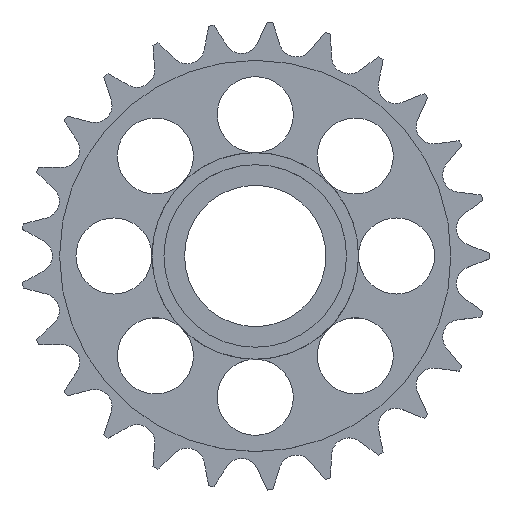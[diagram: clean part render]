
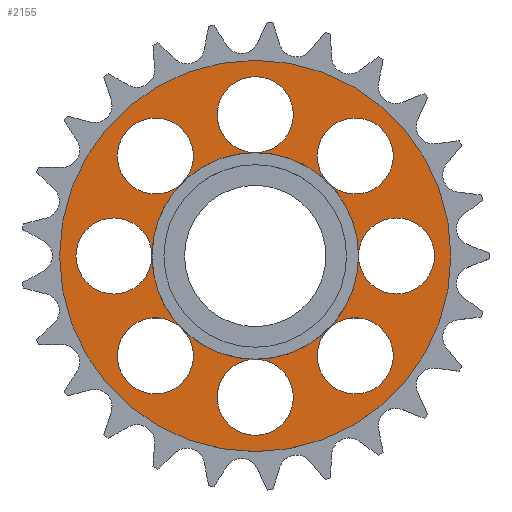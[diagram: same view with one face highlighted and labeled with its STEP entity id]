
A CAD part, top view. The second image highlights one B-rep face of the part: STEP entity #2155.
In plain terms, the highlighted planar face has unit normal (0, 0, 1).
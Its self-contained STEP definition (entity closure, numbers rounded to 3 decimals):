
#431=FACE_BOUND('',#564,.T.);
#445=FACE_OUTER_BOUND('',#563,.T.);
#563=EDGE_LOOP('',(#1450));
#564=EDGE_LOOP('',(#1451,#1452,#1453,#1454,#1455,#1456,#1457,#1458,#1459,
#1460,#1461,#1462,#1463,#1464,#1465,#1466));
#692=CIRCLE('',#2289,23.75);
#693=CIRCLE('',#2290,23.75);
#694=CIRCLE('',#2291,23.75);
#695=CIRCLE('',#2292,23.75);
#696=CIRCLE('',#2293,23.75);
#697=CIRCLE('',#2294,23.75);
#698=CIRCLE('',#2295,23.75);
#699=CIRCLE('',#2296,23.75);
#700=CIRCLE('',#2298,45.);
#701=CIRCLE('',#2299,8.75);
#702=CIRCLE('',#2300,8.75);
#703=CIRCLE('',#2301,8.75);
#704=CIRCLE('',#2302,8.75);
#705=CIRCLE('',#2303,8.75);
#706=CIRCLE('',#2304,8.75);
#707=CIRCLE('',#2305,8.75);
#708=CIRCLE('',#2306,8.75);
#873=VERTEX_POINT('',#3356);
#874=VERTEX_POINT('',#3358);
#875=VERTEX_POINT('',#3360);
#876=VERTEX_POINT('',#3362);
#877=VERTEX_POINT('',#3364);
#878=VERTEX_POINT('',#3366);
#879=VERTEX_POINT('',#3368);
#880=VERTEX_POINT('',#3370);
#881=VERTEX_POINT('',#3374);
#1097=EDGE_CURVE('',#873,#874,#692,.T.);
#1098=EDGE_CURVE('',#874,#875,#693,.T.);
#1099=EDGE_CURVE('',#875,#876,#694,.T.);
#1100=EDGE_CURVE('',#876,#877,#695,.T.);
#1101=EDGE_CURVE('',#877,#878,#696,.T.);
#1102=EDGE_CURVE('',#878,#879,#697,.T.);
#1103=EDGE_CURVE('',#879,#880,#698,.T.);
#1104=EDGE_CURVE('',#880,#873,#699,.T.);
#1105=EDGE_CURVE('',#881,#881,#700,.T.);
#1106=EDGE_CURVE('',#873,#873,#701,.T.);
#1107=EDGE_CURVE('',#880,#880,#702,.T.);
#1108=EDGE_CURVE('',#879,#879,#703,.T.);
#1109=EDGE_CURVE('',#878,#878,#704,.T.);
#1110=EDGE_CURVE('',#877,#877,#705,.T.);
#1111=EDGE_CURVE('',#876,#876,#706,.T.);
#1112=EDGE_CURVE('',#875,#875,#707,.T.);
#1113=EDGE_CURVE('',#874,#874,#708,.T.);
#1450=ORIENTED_EDGE('',*,*,#1105,.F.);
#1451=ORIENTED_EDGE('',*,*,#1106,.F.);
#1452=ORIENTED_EDGE('',*,*,#1104,.F.);
#1453=ORIENTED_EDGE('',*,*,#1107,.F.);
#1454=ORIENTED_EDGE('',*,*,#1103,.F.);
#1455=ORIENTED_EDGE('',*,*,#1108,.F.);
#1456=ORIENTED_EDGE('',*,*,#1102,.F.);
#1457=ORIENTED_EDGE('',*,*,#1109,.F.);
#1458=ORIENTED_EDGE('',*,*,#1101,.F.);
#1459=ORIENTED_EDGE('',*,*,#1110,.F.);
#1460=ORIENTED_EDGE('',*,*,#1100,.F.);
#1461=ORIENTED_EDGE('',*,*,#1111,.F.);
#1462=ORIENTED_EDGE('',*,*,#1099,.F.);
#1463=ORIENTED_EDGE('',*,*,#1112,.F.);
#1464=ORIENTED_EDGE('',*,*,#1098,.F.);
#1465=ORIENTED_EDGE('',*,*,#1113,.F.);
#1466=ORIENTED_EDGE('',*,*,#1097,.F.);
#2124=PLANE('',#2297);
#2155=ADVANCED_FACE('',(#445,#431),#2124,.T.);
#2289=AXIS2_PLACEMENT_3D('',#3359,#2597,#2598);
#2290=AXIS2_PLACEMENT_3D('',#3361,#2599,#2600);
#2291=AXIS2_PLACEMENT_3D('',#3363,#2601,#2602);
#2292=AXIS2_PLACEMENT_3D('',#3365,#2603,#2604);
#2293=AXIS2_PLACEMENT_3D('',#3367,#2605,#2606);
#2294=AXIS2_PLACEMENT_3D('',#3369,#2607,#2608);
#2295=AXIS2_PLACEMENT_3D('',#3371,#2609,#2610);
#2296=AXIS2_PLACEMENT_3D('',#3372,#2611,#2612);
#2297=AXIS2_PLACEMENT_3D('',#3373,#2613,#2614);
#2298=AXIS2_PLACEMENT_3D('',#3375,#2615,#2616);
#2299=AXIS2_PLACEMENT_3D('',#3376,#2617,#2618);
#2300=AXIS2_PLACEMENT_3D('',#3377,#2619,#2620);
#2301=AXIS2_PLACEMENT_3D('',#3378,#2621,#2622);
#2302=AXIS2_PLACEMENT_3D('',#3379,#2623,#2624);
#2303=AXIS2_PLACEMENT_3D('',#3380,#2625,#2626);
#2304=AXIS2_PLACEMENT_3D('',#3381,#2627,#2628);
#2305=AXIS2_PLACEMENT_3D('',#3382,#2629,#2630);
#2306=AXIS2_PLACEMENT_3D('',#3383,#2631,#2632);
#2597=DIRECTION('center_axis',(0.,0.,1.));
#2598=DIRECTION('ref_axis',(-1.,0.,0.));
#2599=DIRECTION('center_axis',(0.,0.,1.));
#2600=DIRECTION('ref_axis',(-1.,0.,0.));
#2601=DIRECTION('center_axis',(0.,0.,1.));
#2602=DIRECTION('ref_axis',(-1.,0.,0.));
#2603=DIRECTION('center_axis',(0.,0.,1.));
#2604=DIRECTION('ref_axis',(-1.,0.,0.));
#2605=DIRECTION('center_axis',(0.,0.,1.));
#2606=DIRECTION('ref_axis',(-1.,0.,0.));
#2607=DIRECTION('center_axis',(0.,0.,1.));
#2608=DIRECTION('ref_axis',(-1.,0.,0.));
#2609=DIRECTION('center_axis',(0.,0.,1.));
#2610=DIRECTION('ref_axis',(-1.,0.,0.));
#2611=DIRECTION('center_axis',(0.,0.,1.));
#2612=DIRECTION('ref_axis',(-1.,0.,0.));
#2613=DIRECTION('center_axis',(0.,0.,1.));
#2614=DIRECTION('ref_axis',(-1.,0.,0.));
#2615=DIRECTION('center_axis',(0.,0.,-1.));
#2616=DIRECTION('ref_axis',(-1.,0.,0.));
#2617=DIRECTION('center_axis',(0.,0.,1.));
#2618=DIRECTION('ref_axis',(1.,0.,0.));
#2619=DIRECTION('center_axis',(0.,0.,1.));
#2620=DIRECTION('ref_axis',(0.707,-0.707,0.));
#2621=DIRECTION('center_axis',(0.,0.,1.));
#2622=DIRECTION('ref_axis',(0.,-1.,0.));
#2623=DIRECTION('center_axis',(0.,0.,1.));
#2624=DIRECTION('ref_axis',(-0.707,-0.707,0.));
#2625=DIRECTION('center_axis',(0.,0.,1.));
#2626=DIRECTION('ref_axis',(-1.,0.,0.));
#2627=DIRECTION('center_axis',(0.,0.,1.));
#2628=DIRECTION('ref_axis',(-0.707,0.707,0.));
#2629=DIRECTION('center_axis',(0.,0.,1.));
#2630=DIRECTION('ref_axis',(0.,1.,0.));
#2631=DIRECTION('center_axis',(0.,0.,1.));
#2632=DIRECTION('ref_axis',(0.707,0.707,0.));
#3356=CARTESIAN_POINT('',(23.75,0.,5.81));
#3358=CARTESIAN_POINT('',(16.794,16.794,5.81));
#3359=CARTESIAN_POINT('Origin',(0.,0.,5.81));
#3360=CARTESIAN_POINT('',(0.,23.75,5.81));
#3361=CARTESIAN_POINT('Origin',(0.,0.,5.81));
#3362=CARTESIAN_POINT('',(-16.794,16.794,5.81));
#3363=CARTESIAN_POINT('Origin',(0.,0.,5.81));
#3364=CARTESIAN_POINT('',(-23.75,0.,5.81));
#3365=CARTESIAN_POINT('Origin',(0.,0.,5.81));
#3366=CARTESIAN_POINT('',(-16.794,-16.794,5.81));
#3367=CARTESIAN_POINT('Origin',(0.,0.,5.81));
#3368=CARTESIAN_POINT('',(0.,-23.75,5.81));
#3369=CARTESIAN_POINT('Origin',(0.,0.,5.81));
#3370=CARTESIAN_POINT('',(16.794,-16.794,5.81));
#3371=CARTESIAN_POINT('Origin',(0.,0.,5.81));
#3372=CARTESIAN_POINT('Origin',(0.,0.,5.81));
#3373=CARTESIAN_POINT('Origin',(0.,0.,5.81));
#3374=CARTESIAN_POINT('',(45.,0.,5.81));
#3375=CARTESIAN_POINT('Origin',(0.,0.,5.81));
#3376=CARTESIAN_POINT('Origin',(32.5,0.,5.81));
#3377=CARTESIAN_POINT('Origin',(22.981,-22.981,5.81));
#3378=CARTESIAN_POINT('Origin',(0.,-32.5,5.81));
#3379=CARTESIAN_POINT('Origin',(-22.981,-22.981,5.81));
#3380=CARTESIAN_POINT('Origin',(-32.5,0.,5.81));
#3381=CARTESIAN_POINT('Origin',(-22.981,22.981,5.81));
#3382=CARTESIAN_POINT('Origin',(0.,32.5,5.81));
#3383=CARTESIAN_POINT('Origin',(22.981,22.981,5.81));
